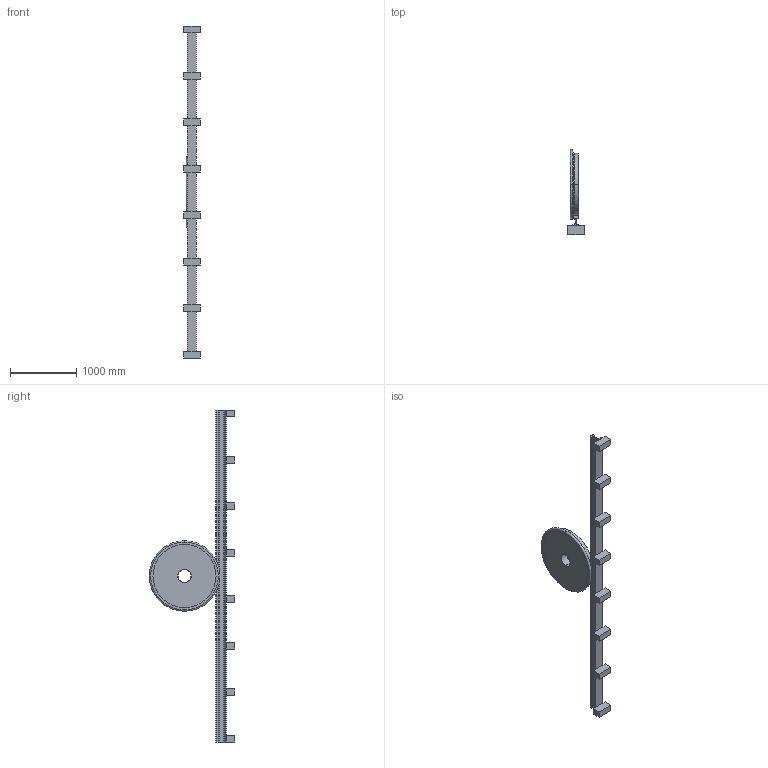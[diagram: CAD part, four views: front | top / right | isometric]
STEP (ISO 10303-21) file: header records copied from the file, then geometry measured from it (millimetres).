
FILE_DESCRIPTION(/* description */ ('VariCAD 2013-2.07 AP-214'),/* implementation_level */ '2;1');
FILE_NAME(/* name */ '0.001m_clear_of_intersection.stp',/* time_stamp */ '2013-08-21T12:24:55+01:00',/* author */ (''),/* organization */ (''),/* preprocessor_version */ 'ST-DEVELOPER v14',/* originating_system */ 'VariCAD 2013-2.07; kernel version (20130303)',/* authorisation */ '');
FILE_SCHEMA (('AUTOMOTIVE_DESIGN'));
Length unit declared in the file: millimetre
Products named in the file (11): 0.001m_clear_of_intersection
Assembly tree (10 placements, depth 2):
  0.001m_clear_of_intersection
    (unnamed)
    (unnamed)
    (unnamed)
    (unnamed)
    (unnamed)
    (unnamed)
    (unnamed)
    (unnamed)
    (unnamed)
    (unnamed)
Bounding box: 250 x 1285.76 x 5000 mm (x, y, z)
Volume: 158408806.1 mm3; surface area: 6359355.3 mm2
Topology: 10 solids, 10 shells, 101 faces, 230 edges, 150 vertices
Faces by surface type: plane 68, cylinder 19, torus 10, cone 4
Entity records: 3223 total; most frequent: DIRECTION 560, CARTESIAN_POINT 512, ORIENTED_EDGE 460, EDGE_CURVE 230, AXIS2_PLACEMENT_3D 198, LINE 164, VECTOR 164, VERTEX_POINT 150
